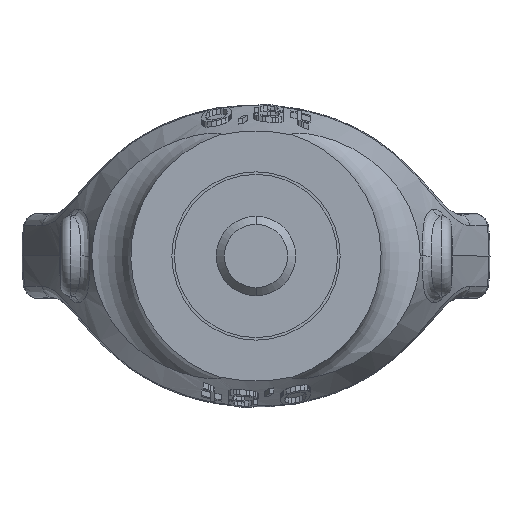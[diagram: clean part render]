
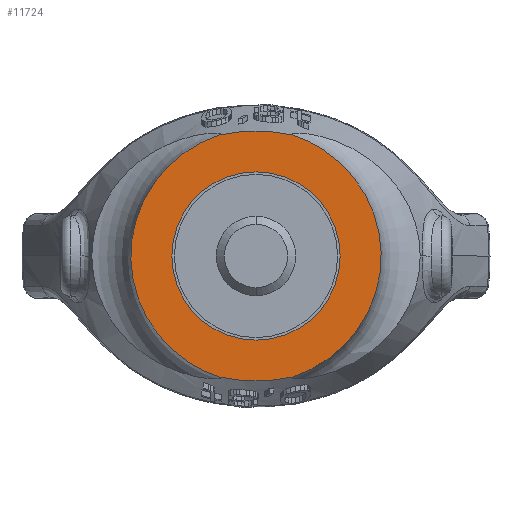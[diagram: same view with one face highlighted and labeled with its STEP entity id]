
A CAD part, front view. The second image highlights one B-rep face of the part: STEP entity #11724.
In plain terms, the highlighted planar face has unit normal (0, -1, 0).
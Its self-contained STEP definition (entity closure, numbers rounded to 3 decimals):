
#2331=CARTESIAN_POINT('',(3.597,0.,-12.102));
#2332=CARTESIAN_POINT('',(4.351,0.,-11.856));
#2333=CARTESIAN_POINT('',(5.783,0.,-11.24));
#2334=CARTESIAN_POINT('',(7.738,0.,-9.952));
#2335=CARTESIAN_POINT('',(9.412,0.,-8.352));
#2336=CARTESIAN_POINT('',(10.766,0.,-6.495));
#2337=CARTESIAN_POINT('',(11.758,0.,-4.441));
#2338=CARTESIAN_POINT('',(12.364,0.,-2.254));
#2339=CARTESIAN_POINT('',(12.568,0.,0.));
#2340=CARTESIAN_POINT('',(12.364,0.,2.254));
#2341=CARTESIAN_POINT('',(11.758,0.,4.441));
#2342=CARTESIAN_POINT('',(10.766,0.,6.495));
#2343=CARTESIAN_POINT('',(9.412,0.,8.352));
#2344=CARTESIAN_POINT('',(7.738,0.,9.952));
#2345=CARTESIAN_POINT('',(5.783,0.,11.24));
#2346=CARTESIAN_POINT('',(4.351,0.,11.856));
#2347=CARTESIAN_POINT('',(3.597,0.,12.102));
#2349=CARTESIAN_POINT('',(3.597,0.,-12.102));
#2350=CARTESIAN_POINT('',(3.335,0.,-12.161));
#2351=CARTESIAN_POINT('',(2.153,0.,-12.396));
#2352=CARTESIAN_POINT('',(0.,0.,-12.581));
#2353=CARTESIAN_POINT('',(-2.153,0.,-12.396));
#2354=CARTESIAN_POINT('',(-3.335,0.,-12.161));
#2355=CARTESIAN_POINT('',(-3.597,0.,-12.102));
#2357=CARTESIAN_POINT('',(3.597,0.,12.102));
#2358=CARTESIAN_POINT('',(3.335,0.,12.161));
#2359=CARTESIAN_POINT('',(2.153,0.,12.396));
#2360=CARTESIAN_POINT('',(0.,0.,12.581));
#2361=CARTESIAN_POINT('',(-2.153,0.,12.396));
#2362=CARTESIAN_POINT('',(-3.335,0.,12.161));
#2363=CARTESIAN_POINT('',(-3.597,0.,12.102));
#2365=CARTESIAN_POINT('',(0.,0.,0.));
#2366=DIRECTION('',(0.,-1.,0.));
#2367=DIRECTION('',(1.,0.,0.));
#2368=AXIS2_PLACEMENT_3D('',#2365,#2366,#2367);
#2370=CARTESIAN_POINT('',(0.,0.,0.));
#2371=DIRECTION('',(0.,-1.,0.));
#2372=DIRECTION('',(-1.,0.,0.));
#2373=AXIS2_PLACEMENT_3D('',#2370,#2371,#2372);
#2375=CARTESIAN_POINT('',(-3.597,0.,12.102));
#2376=CARTESIAN_POINT('',(-4.351,0.,11.856));
#2377=CARTESIAN_POINT('',(-5.783,0.,11.24));
#2378=CARTESIAN_POINT('',(-7.738,0.,9.952));
#2379=CARTESIAN_POINT('',(-9.412,0.,8.352));
#2380=CARTESIAN_POINT('',(-10.766,0.,6.495));
#2381=CARTESIAN_POINT('',(-11.758,0.,4.441));
#2382=CARTESIAN_POINT('',(-12.364,0.,2.254));
#2383=CARTESIAN_POINT('',(-12.568,0.,0.));
#2384=CARTESIAN_POINT('',(-12.364,0.,-2.254));
#2385=CARTESIAN_POINT('',(-11.758,0.,-4.441));
#2386=CARTESIAN_POINT('',(-10.766,0.,-6.495));
#2387=CARTESIAN_POINT('',(-9.412,0.,-8.352));
#2388=CARTESIAN_POINT('',(-7.738,0.,-9.952));
#2389=CARTESIAN_POINT('',(-5.783,0.,-11.24));
#2390=CARTESIAN_POINT('',(-4.351,0.,-11.856));
#2391=CARTESIAN_POINT('',(-3.597,0.,-12.102));
#8311=CARTESIAN_POINT('',(8.4,0.,0.));
#8312=CARTESIAN_POINT('',(-8.4,0.,0.));
#8313=VERTEX_POINT('',#8311);
#8314=VERTEX_POINT('',#8312);
#9185=VERTEX_POINT('',#2357);
#9186=VERTEX_POINT('',#2363);
#9187=VERTEX_POINT('',#2349);
#9188=VERTEX_POINT('',#2355);
#11706=CARTESIAN_POINT('',(-14.387,0.,0.));
#11707=DIRECTION('',(0.,-1.,0.));
#11708=DIRECTION('',(1.,0.,0.));
#11709=AXIS2_PLACEMENT_3D('',#11706,#11707,#11708);
#11710=PLANE('72',#11709);
#11711=ORIENTED_EDGE('6219',*,*,#11699,.F.);
#11712=ORIENTED_EDGE('6199',*,*,#9945,.T.);
#11714=ORIENTED_EDGE('6220',*,*,#11713,.F.);
#11715=ORIENTED_EDGE('6167',*,*,#10481,.F.);
#11716=EDGE_LOOP('72',(#11711,#11712,#11714,#11715));
#11717=FACE_OUTER_BOUND('72',#11716,.F.);
#11719=ORIENTED_EDGE('1727',*,*,#11718,.T.);
#11721=ORIENTED_EDGE('1728',*,*,#11720,.T.);
#11722=EDGE_LOOP('72',(#11719,#11721));
#11723=FACE_BOUND('72',#11722,.F.);
#2348=B_SPLINE_CURVE_WITH_KNOTS('6219',3,(#2331,#2332,#2333,#2334,#2335,#2336,
#2337,#2338,#2339,#2340,#2341,#2342,#2343,#2344,#2345,#2346,#2347),
.UNSPECIFIED.,.F.,.F.,(4,1,1,1,1,1,1,1,1,1,1,1,1,1,4),(0.,0.071,
0.143,0.214,0.286,0.357,
0.429,0.5,0.571,0.643,0.714,
0.786,0.857,0.929,1.),.UNSPECIFIED.);
#2356=B_SPLINE_CURVE_WITH_KNOTS('6199',3,(#2349,#2350,#2351,#2352,#2353,#2354,
#2355),.UNSPECIFIED.,.F.,.F.,(4,1,1,1,4),(0.,0.112,0.5,
0.888,1.),.UNSPECIFIED.);
#2364=B_SPLINE_CURVE_WITH_KNOTS('6167',3,(#2357,#2358,#2359,#2360,#2361,#2362,
#2363),.UNSPECIFIED.,.F.,.F.,(4,1,1,1,4),(0.,0.112,0.5,
0.888,1.),.UNSPECIFIED.);
#2369=CIRCLE('1727',#2368,8.4);
#2374=CIRCLE('1728',#2373,8.4);
#2392=B_SPLINE_CURVE_WITH_KNOTS('6220',3,(#2375,#2376,#2377,#2378,#2379,#2380,
#2381,#2382,#2383,#2384,#2385,#2386,#2387,#2388,#2389,#2390,#2391),
.UNSPECIFIED.,.F.,.F.,(4,1,1,1,1,1,1,1,1,1,1,1,1,1,4),(0.,0.071,
0.143,0.214,0.286,0.357,
0.429,0.5,0.571,0.643,0.714,
0.786,0.857,0.929,1.),.UNSPECIFIED.);
#9945=EDGE_CURVE('6199',#9187,#9188,#2356,.T.);
#10481=EDGE_CURVE('6167',#9185,#9186,#2364,.T.);
#11699=EDGE_CURVE('6219',#9187,#9185,#2348,.T.);
#11713=EDGE_CURVE('6220',#9186,#9188,#2392,.T.);
#11718=EDGE_CURVE('1727',#8313,#8314,#2369,.T.);
#11720=EDGE_CURVE('1728',#8314,#8313,#2374,.T.);
#11724=ADVANCED_FACE('72',(#11717,#11723),#11710,.T.);
